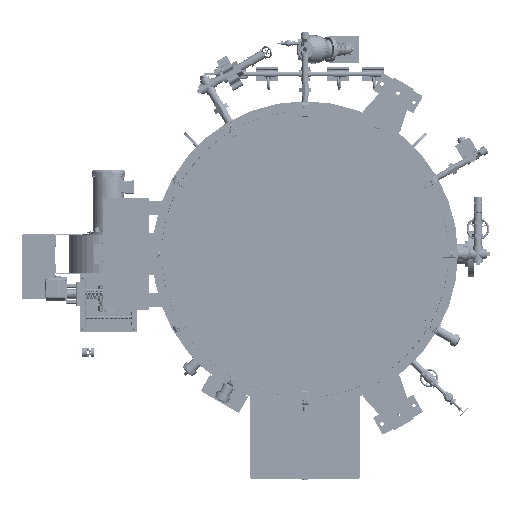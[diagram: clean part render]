
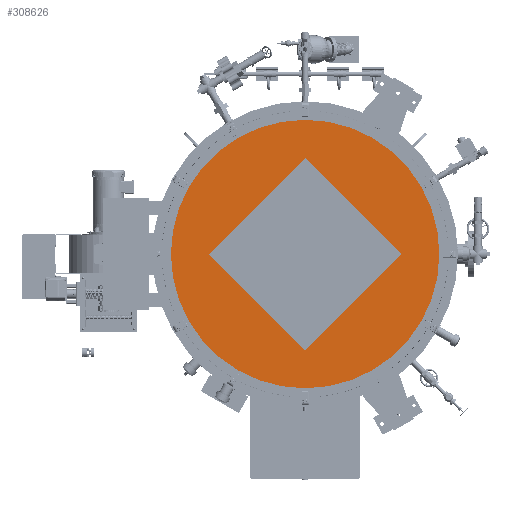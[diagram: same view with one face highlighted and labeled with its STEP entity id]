
A CAD part, front view. The second image highlights one B-rep face of the part: STEP entity #308626.
In plain terms, the highlighted planar face has unit normal (0, -1, 0).
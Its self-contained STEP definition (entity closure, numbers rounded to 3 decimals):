
#9989=FACE_BOUND('',#60798,.T.);
#26201=CIRCLE('',#330664,29.);
#41645=FACE_OUTER_BOUND('',#60797,.T.);
#60797=EDGE_LOOP('',(#208854));
#60798=EDGE_LOOP('',(#208855,#208856,#208857,#208858));
#82501=LINE('',#461157,#105096);
#82505=LINE('',#461165,#105100);
#82508=LINE('',#461171,#105103);
#82511=LINE('',#461176,#105106);
#105096=VECTOR('',#367132,0.394);
#105100=VECTOR('',#367138,0.394);
#105103=VECTOR('',#367143,0.394);
#105106=VECTOR('',#367148,0.394);
#128048=VERTEX_POINT('',#461155);
#128049=VERTEX_POINT('',#461156);
#128052=VERTEX_POINT('',#461164);
#128054=VERTEX_POINT('',#461170);
#128056=VERTEX_POINT('',#461180);
#159304=EDGE_CURVE('',#128048,#128049,#82501,.T.);
#159308=EDGE_CURVE('',#128049,#128052,#82505,.T.);
#159311=EDGE_CURVE('',#128052,#128054,#82508,.T.);
#159314=EDGE_CURVE('',#128054,#128048,#82511,.T.);
#159316=EDGE_CURVE('',#128056,#128056,#26201,.T.);
#208854=ORIENTED_EDGE('',*,*,#159316,.T.);
#208855=ORIENTED_EDGE('',*,*,#159304,.T.);
#208856=ORIENTED_EDGE('',*,*,#159308,.T.);
#208857=ORIENTED_EDGE('',*,*,#159311,.T.);
#208858=ORIENTED_EDGE('',*,*,#159314,.T.);
#299590=PLANE('',#330663);
#308626=ADVANCED_FACE('',(#41645,#9989),#299590,.T.);
#330663=AXIS2_PLACEMENT_3D('',#461179,#367152,#367153);
#330664=AXIS2_PLACEMENT_3D('',#461181,#367154,#367155);
#367132=DIRECTION('',(-0.707,0.,0.707));
#367138=DIRECTION('',(0.707,0.,0.707));
#367143=DIRECTION('',(0.707,0.,-0.707));
#367148=DIRECTION('',(-0.707,0.,-0.707));
#367152=DIRECTION('center_axis',(0.,-1.,0.));
#367153=DIRECTION('ref_axis',(0.,0.,-1.));
#367154=DIRECTION('center_axis',(0.,-1.,0.));
#367155=DIRECTION('ref_axis',(1.,0.,0.));
#461155=CARTESIAN_POINT('',(0.,0.,-20.771));
#461156=CARTESIAN_POINT('',(-20.771,0.,0.));
#461157=CARTESIAN_POINT('',(-15.578,0.,-5.193));
#461164=CARTESIAN_POINT('',(0.,0.,20.771));
#461165=CARTESIAN_POINT('',(-5.193,0.,15.578));
#461170=CARTESIAN_POINT('',(20.771,0.,0.));
#461171=CARTESIAN_POINT('',(15.578,0.,5.193));
#461176=CARTESIAN_POINT('',(5.193,0.,-15.578));
#461179=CARTESIAN_POINT('Origin',(0.,0.,0.));
#461180=CARTESIAN_POINT('',(0.,0.,
29.));
#461181=CARTESIAN_POINT('Origin',(0.,0.,0.));
